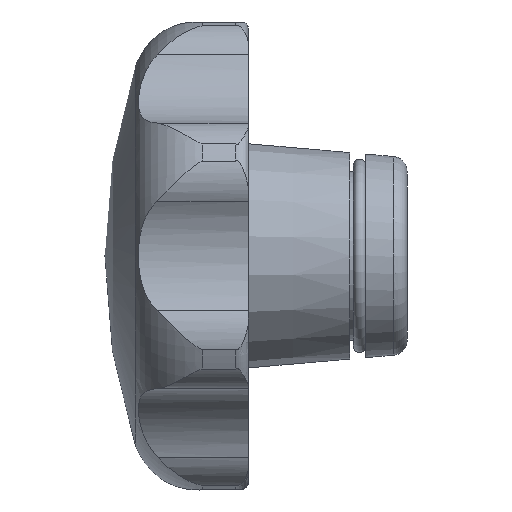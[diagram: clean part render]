
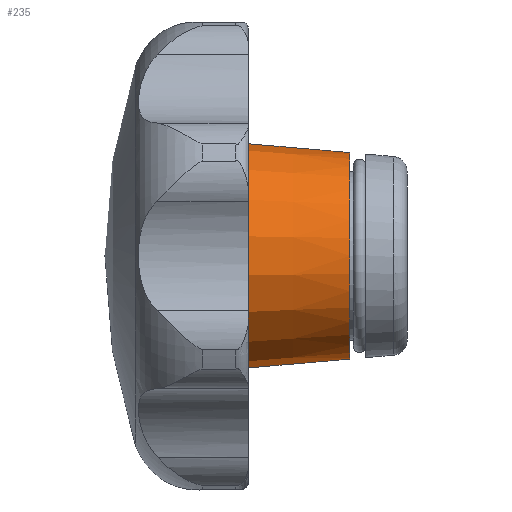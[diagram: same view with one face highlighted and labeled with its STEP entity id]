
A CAD part, left-side view. The second image highlights one B-rep face of the part: STEP entity #235.
In plain terms, the highlighted conical face has half-angle 5 degrees and reference radius 15.627 mm.
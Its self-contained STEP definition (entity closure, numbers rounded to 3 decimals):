
#235 = ADVANCED_FACE( '', ( #492, #493 ), #494, .T. );
#492 = FACE_BOUND( '', #902, .T. );
#493 = FACE_OUTER_BOUND( '', #903, .T. );
#494 = CONICAL_SURFACE( '', #904, 15.627, 0.087 );
#902 = EDGE_LOOP( '', ( #1780 ) );
#903 = EDGE_LOOP( '', ( #1781 ) );
#904 = AXIS2_PLACEMENT_3D( '', #1782, #1783, #1784 );
#1780 = ORIENTED_EDGE( '', *, *, #2813, .F. );
#1781 = ORIENTED_EDGE( '', *, *, #2812, .T. );
#1782 = CARTESIAN_POINT( '', ( 0., 30.055, 0. ) );
#1783 = DIRECTION( '', ( 0., 1., 0. ) );
#1784 = DIRECTION( '', ( 0., 0., 1. ) );
#2812 = EDGE_CURVE( '', #3446, #3446, #3447, .T. );
#2813 = EDGE_CURVE( '', #3448, #3448, #3449, .T. );
#3446 = VERTEX_POINT( '', #5364 );
#3447 = CIRCLE( '', #5365, 15.627 );
#3448 = VERTEX_POINT( '', #5366 );
#3449 = CIRCLE( '', #5367, 13.663 );
#5364 = CARTESIAN_POINT( '', ( 0., 30.055, -15.627 ) );
#5365 = AXIS2_PLACEMENT_3D( '', #6151, #6152, #6153 );
#5366 = CARTESIAN_POINT( '', ( 0., 7.6, -13.663 ) );
#5367 = AXIS2_PLACEMENT_3D( '', #6154, #6155, #6156 );
#6151 = CARTESIAN_POINT( '', ( 0., 30.055, 0. ) );
#6152 = DIRECTION( '', ( 0., -1., 0. ) );
#6153 = DIRECTION( '', ( 0., 0., -1. ) );
#6154 = CARTESIAN_POINT( '', ( 0., 7.6, 0. ) );
#6155 = DIRECTION( '', ( 0., -1., 0. ) );
#6156 = DIRECTION( '', ( 0., 0., -1. ) );
